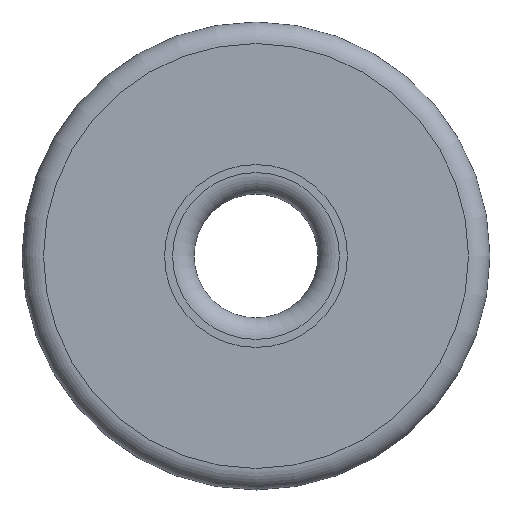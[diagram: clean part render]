
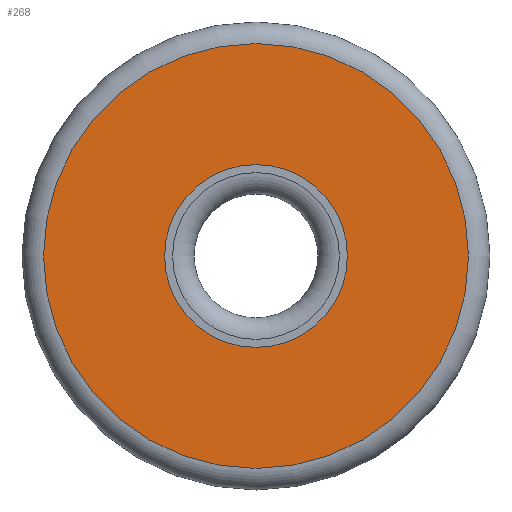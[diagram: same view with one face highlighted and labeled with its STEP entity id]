
A CAD part, front view. The second image highlights one B-rep face of the part: STEP entity #268.
In plain terms, the highlighted planar face has unit normal (0, -1, 0).
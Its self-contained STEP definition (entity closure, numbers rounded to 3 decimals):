
#11 = FACE_OUTER_BOUND ( 'NONE', #21, .T. ) ;
#15 = CARTESIAN_POINT ( 'NONE',  ( 7.352, 222.425, 0. ) ) ;
#21 = EDGE_LOOP ( 'NONE', ( #37 ) ) ;
#37 = ORIENTED_EDGE ( 'NONE', *, *, #368, .T. ) ;
#74 = DIRECTION ( 'NONE',  ( 0., 0., -1. ) ) ;
#101 = DIRECTION ( 'NONE',  ( 0., 1., 0. ) ) ;
#113 = VERTEX_POINT ( 'NONE', #200 ) ;
#114 = AXIS2_PLACEMENT_3D ( 'NONE', #126, #135, #255 ) ;
#126 = CARTESIAN_POINT ( 'NONE',  ( 7.352, 222.425, 0. ) ) ;
#127 = DIRECTION ( 'NONE',  ( 0., -1., 0. ) ) ;
#135 = DIRECTION ( 'NONE',  ( 0., -1., 0. ) ) ;
#145 = CARTESIAN_POINT ( 'NONE',  ( 7.352, 222.425, -0.85 ) ) ;
#187 = PLANE ( 'NONE',  #316 ) ;
#188 = ORIENTED_EDGE ( 'NONE', *, *, #300, .F. ) ;
#194 = EDGE_LOOP ( 'NONE', ( #188 ) ) ;
#199 = CIRCLE ( 'NONE', #114, 0.85 ) ;
#200 = CARTESIAN_POINT ( 'NONE',  ( 7.352, 222.425, -1.975 ) ) ;
#202 = VERTEX_POINT ( 'NONE', #145 ) ;
#221 = CARTESIAN_POINT ( 'NONE',  ( 5.377, 222.425, 0. ) ) ;
#224 = FACE_BOUND ( 'NONE', #194, .T. ) ;
#255 = DIRECTION ( 'NONE',  ( 0., 0., -1. ) ) ;
#268 = ADVANCED_FACE ( 'NONE', ( #224, #11 ), #187, .F. ) ;
#290 = CIRCLE ( 'NONE', #322, 1.975 ) ;
#300 = EDGE_CURVE ( 'NONE', #202, #202, #199, .T. ) ;
#308 = DIRECTION ( 'NONE',  ( 1., 0., 0. ) ) ;
#316 = AXIS2_PLACEMENT_3D ( 'NONE', #221, #101, #308 ) ;
#322 = AXIS2_PLACEMENT_3D ( 'NONE', #15, #127, #74 ) ;
#368 = EDGE_CURVE ( 'NONE', #113, #113, #290, .T. ) ;
